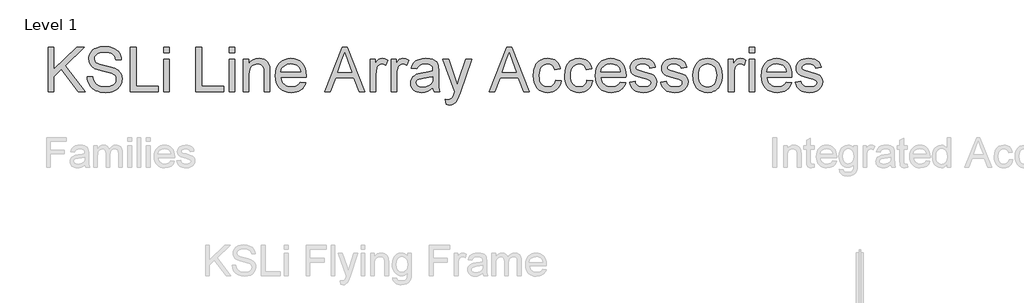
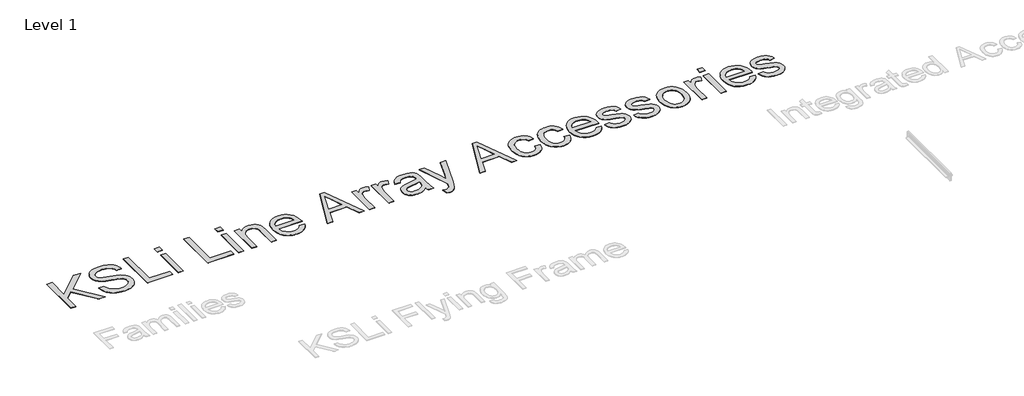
# One storey, part 36 of 52: 1 proxy.
"""IFC4 building model written with IfcOpenShell, lengths in millimetres."""

from ifc_helpers import new_model, si_unit, origin, origin_with_axes, place, context, project, spatial, polyline, outline, extrude, element, save

model = new_model("IFC4")

# Units and contexts
model_context = context("Model", 3, world=origin())
ifc_project = project(units=[si_unit("LENGTHUNIT", "METRE", prefix="MILLI")], contexts=[model_context])

# Site, building, storey
site = spatial("IfcSite", under=ifc_project)
building = spatial("IfcBuilding", under=site)
storey = spatial("IfcBuildingStorey", under=building, Name="Level 1", Elevation=0.0)

# Proxy
placement = place(None, origin())
element("IfcBuildingElementProxy", 1, Name="600mm Arial", ObjectType="600mm Arial", at=placement, inside=storey, context=model_context, shape_type="SweptSolid", body=[
    extrude(outline(polyline([(5965.0460087, -48567.5695164), (5965.0460087, -47976.8002857), (6038.8921626, -47976.8002857), (6038.8921626, -48265.982978), (6341.776778, -47976.8002857), (6445.0460087, -47976.8002857), (6190.7671626, -48219.684901), (6454.276778, -48567.5695164), (6363.9883164, -48567.5695164), (6138.4113933, -48269.5887472), (6038.8921626, -48364.4925934), (6038.8921626, -48567.5695164), (5965.0460087, -48567.5695164)])), origin_with_axes(), (0.0, 0.0, 1.0), 5.0),
    extrude(outline(polyline([(6481.9690857, -48364.4925934), (6555.8152395, -48364.4925934), (6564.2887972, -48405.4721607), (6579.6133164, -48438.4108626), (6603.5195664, -48464.5526895), (6637.7383164, -48485.1416318), (6679.5652395, -48498.5010068), (6726.2960087, -48502.9541318), (6767.4378357, -48499.5827376), (6803.4594703, -48489.4685549), (6832.6481722, -48473.4589395), (6853.291201, -48452.4012472), (6865.5688453, -48428.2245645), (6869.6613933, -48402.857978), (6866.5964895, -48378.1404299), (6857.401778, -48356.7762472), (6838.7238933, -48338.5490837), (6807.2094703, -48323.2425934), (6699.6854318, -48295.045478), (6629.1024991, -48276.3856222), (6583.9402395, -48258.6272087), (6547.1794222, -48233.7834587), (6521.1277395, -48203.6752857), (6505.604903, -48168.951728), (6500.4306241, -48130.2618241), (6502.0306842, -48108.271139), (6506.8308645, -48087.0106222), (6514.831165, -48066.4802736), (6526.0315857, -48046.6800934), (6540.3059246, -48028.4168722), (6557.5279799, -48012.497401), (6577.6977515, -47998.9216799), (6600.8152395, -47987.6897087), (6652.7743741, -47972.5995645), (6710.2863933, -47967.5695164), (6772.5940857, -47972.8339395), (6827.1133164, -47988.6272087), (6850.9654799, -48000.3910309), (6871.8969703, -48014.6248049), (6889.9077876, -48031.3285309), (6904.9979318, -48050.5022087), (6917.0502155, -48071.5869443), (6925.947451, -48094.0238434), (6931.6896385, -48117.8129059), (6934.276778, -48142.9541318), (6860.4306241, -48142.9541318), (6855.4907203, -48119.3904299), (6846.8729318, -48098.8916318), (6834.5772587, -48081.4577376), (6818.603701, -48067.0887472), (6798.6547828, -48055.856776), (6774.433028, -48047.8339395), (6745.9384366, -48043.0202376), (6713.1710087, -48041.4156703), (6679.3579078, -48043.0022087), (6650.4666818, -48047.7618241), (6626.4973308, -48055.6945164), (6607.4498549, -48066.8002857), (6592.9366337, -48080.1506462), (6582.5700472, -48094.8171126), (6576.3500953, -48110.7996847), (6574.276778, -48128.0983626), (6580.1541818, -48156.4757664), (6597.7863933, -48179.3002857), (6613.9762972, -48189.450526), (6639.4690857, -48199.7089395), (6718.3633164, -48220.5502857), (6799.7815857, -48240.3459587), (6849.0363933, -48257.6175934), (6891.1337491, -48284.4084587), (6907.40929, -48300.1566559), (6920.5027395, -48317.4733626), (6930.5673429, -48336.2684347), (6937.7563453, -48356.451728), (6943.5075472, -48400.982978), (6941.8534006, -48424.0824371), (6936.8909607, -48446.5058145), (6928.6202275, -48468.2531102), (6917.041201, -48489.3243241), (6902.3567058, -48508.903651), (6884.7695664, -48526.1752857), (6864.2797828, -48541.139228), (6840.8873549, -48553.795478), (6815.2728717, -48563.8600813), (6788.1169222, -48571.0490837), (6729.1806241, -48576.8002857), (6691.4056842, -48575.2498049), (6656.8308645, -48570.5983626), (6625.456165, -48562.8459587), (6597.2815857, -48551.9925934), (6572.1358525, -48538.0202376), (6549.8476914, -48520.9108626), (6530.4171025, -48500.6644684), (6513.8440857, -48477.2810549), (6500.4937251, -48451.5178337), (6490.7311049, -48424.1320164), (6484.5562251, -48395.123603), (6481.9690857, -48364.4925934)])), origin_with_axes(), (0.0, 0.0, 1.0), 5.0),
    extrude(outline(polyline([(7054.276778, -48567.5695164), (7054.276778, -47976.8002857), (7128.1229318, -47976.8002857), (7128.1229318, -48493.7233626), (7423.5075472, -48493.7233626), (7423.5075472, -48567.5695164), (7054.276778, -48567.5695164)])), origin_with_axes(), (0.0, 0.0, 1.0), 5.0),
    extrude(outline(polyline([(7497.353701, -48567.5695164), (7497.353701, -48133.7233626), (7571.1998549, -48133.7233626), (7571.1998549, -48567.5695164), (7497.353701, -48567.5695164)])), origin_with_axes(), (0.0, 0.0, 1.0), 5.0),
    extrude(outline(polyline([(7497.353701, -48050.6464395), (7497.353701, -47976.8002857), (7571.1998549, -47976.8002857), (7571.1998549, -48050.6464395), (7497.353701, -48050.6464395)])), origin_with_axes(), (0.0, 0.0, 1.0), 5.0),
    extrude(outline(polyline([(7921.9690857, -48567.5695164), (7921.9690857, -47976.8002857), (7995.8152395, -47976.8002857), (7995.8152395, -48493.7233626), (8291.1998549, -48493.7233626), (8291.1998549, -48567.5695164), (7921.9690857, -48567.5695164)])), origin_with_axes(), (0.0, 0.0, 1.0), 5.0),
    extrude(outline(polyline([(8365.0460087, -48567.5695164), (8365.0460087, -48133.7233626), (8438.8921626, -48133.7233626), (8438.8921626, -48567.5695164), (8365.0460087, -48567.5695164)])), origin_with_axes(), (0.0, 0.0, 1.0), 5.0),
    extrude(outline(polyline([(8365.0460087, -48050.6464395), (8365.0460087, -47976.8002857), (8438.8921626, -47976.8002857), (8438.8921626, -48050.6464395), (8365.0460087, -48050.6464395)])), origin_with_axes(), (0.0, 0.0, 1.0), 5.0),
    extrude(outline(polyline([(8549.6613933, -48567.5695164), (8549.6613933, -48133.7233626), (8623.5075472, -48133.7233626), (8623.5075472, -48194.3002857), (8649.1625953, -48163.7594203), (8679.9738933, -48141.9445164), (8715.9414414, -48128.8555741), (8757.0652395, -48124.4925934), (8793.4654799, -48128.0082184), (8826.8008164, -48138.5550934), (8854.6012972, -48154.8171126), (8874.3969703, -48175.4781703), (8887.8284607, -48200.4841799), (8896.5363933, -48229.7810549), (8900.4306241, -48301.1752857), (8900.4306241, -48567.5695164), (8826.5844703, -48567.5695164), (8826.5844703, -48311.1272087), (8824.4570664, -48272.9421126), (8818.0748549, -48245.7906703), (8806.3020183, -48226.3375453), (8788.0027395, -48211.247401), (8764.5472107, -48201.5659107), (8737.3056241, -48198.3387472), (8714.8822467, -48200.1506462), (8694.0544222, -48205.5863434), (8674.8221506, -48214.6458385), (8657.1854318, -48227.3291318), (8642.4513573, -48245.0785309), (8631.9270183, -48269.3363434), (8625.612415, -48300.1025693), (8623.5075472, -48337.3772087), (8623.5075472, -48567.5695164), (8549.6613933, -48567.5695164)])), origin_with_axes(), (0.0, 0.0, 1.0), 5.0),
    extrude(outline(polyline([(9305.7190857, -48438.3387472), (9378.1229318, -48447.5695164), (9367.0216698, -48476.5689155), (9352.0351914, -48502.1248049), (9333.1634967, -48524.2371847), (9310.4065857, -48542.9060549), (9283.9988333, -48557.7347809), (9254.1746145, -48568.326728), (9220.9339294, -48574.6818962), (9184.276778, -48576.8002857), (9138.4564655, -48573.1449371), (9097.6301433, -48562.1788914), (9061.7978116, -48543.9021486), (9030.9594703, -48518.3147087), (9006.1607924, -48486.1287111), (8988.447451, -48448.0562953), (8977.8194462, -48404.0974611), (8974.276778, -48354.2522087), (8977.8555039, -48302.716752), (8988.5916818, -48257.2930741), (9006.4853116, -48217.9811751), (9031.5363933, -48184.7810549), (9062.2936049, -48158.404853), (9097.3056241, -48139.5647087), (9136.572451, -48128.2606222), (9180.0940857, -48124.4925934), (9222.2139775, -48128.2516078), (9260.3044222, -48139.528651), (9294.3654198, -48158.3237232), (9324.3969703, -48184.6368241), (9348.9116938, -48217.7648289), (9366.4222107, -48257.0046126), (9376.9285208, -48302.3561751), (9380.4306241, -48353.8195164), (9379.9979318, -48373.7233626), (9048.1229318, -48373.7233626), (9052.4002756, -48403.1915116), (9060.9053837, -48428.9998049), (9073.6382563, -48451.1482424), (9090.5988933, -48469.6368241), (9110.8497948, -48484.2131462), (9133.4534607, -48494.6248049), (9158.4098909, -48500.8718001), (9185.7190857, -48502.9541318), (9225.0219703, -48499.0959587), (9258.1229318, -48487.5214395), (9285.0219703, -48467.5094203), (9305.7190857, -48438.3387472)]), holes=[polyline([(9048.1229318, -48299.8772087), (9306.5844703, -48299.8772087), (9296.5964895, -48260.8627857), (9288.0057443, -48245.5202376), (9277.0171626, -48232.9541318), (9256.8789414, -48217.809901), (9233.964278, -48206.9925934), (9208.2731722, -48200.5022087), (9179.8056241, -48198.3387472), (9153.8395784, -48200.0650092), (9130.0279799, -48205.2437953), (9108.3708284, -48213.8751054), (9088.8681241, -48225.9589395), (9072.502439, -48240.9364034), (9060.2563453, -48258.248603), (9052.1298429, -48277.8955381), (9048.1229318, -48299.8772087)])]), origin_with_axes(), (0.0, 0.0, 1.0), 5.0),
    extrude(outline(polyline([(9625.478701, -48567.5695164), (9861.2960087, -47976.8002857), (9924.1806241, -47976.8002857), (10159.9979318, -48567.5695164), (10081.9690857, -48567.5695164), (10014.3248549, -48382.9541318), (9771.0075472, -48382.9541318), (9703.5075472, -48567.5695164), (9625.478701, -48567.5695164)]), holes=[polyline([(9798.1229318, -48309.107978), (9987.353701, -48309.107978), (9934.1325472, -48163.8675934), (9892.7383164, -48050.6464395), (9855.9594703, -48151.1752857), (9798.1229318, -48309.107978)])]), origin_with_axes(), (0.0, 0.0, 1.0), 5.0),
    extrude(outline(polyline([(10229.6613933, -48567.5695164), (10229.6613933, -48133.7233626), (10294.276778, -48133.7233626), (10294.276778, -48197.9060549), (10318.1469703, -48160.6945164), (10340.1421626, -48138.7714395), (10362.2094703, -48128.0623049), (10386.2960087, -48124.4925934), (10423.0748549, -48130.1897087), (10460.4306241, -48147.2810549), (10435.7671626, -48213.482978), (10409.8056241, -48202.1248049), (10383.8440857, -48198.3387472), (10361.7948068, -48201.9805741), (10342.089278, -48212.9060549), (10326.1698068, -48230.2858626), (10315.478701, -48253.2906703), (10306.5003357, -48294.5406703), (10303.5075472, -48339.5406703), (10303.5075472, -48567.5695164), (10229.6613933, -48567.5695164)])), origin_with_axes(), (0.0, 0.0, 1.0), 5.0),
    extrude(outline(polyline([(10506.5844703, -48567.5695164), (10506.5844703, -48133.7233626), (10571.1998549, -48133.7233626), (10571.1998549, -48197.9060549), (10595.0700472, -48160.6945164), (10617.0652395, -48138.7714395), (10639.1325472, -48128.0623049), (10663.2190857, -48124.4925934), (10699.9979318, -48130.1897087), (10737.353701, -48147.2810549), (10712.6902395, -48213.482978), (10686.728701, -48202.1248049), (10660.7671626, -48198.3387472), (10638.7178837, -48201.9805741), (10619.0123549, -48212.9060549), (10603.0928837, -48230.2858626), (10592.401778, -48253.2906703), (10583.4234126, -48294.5406703), (10580.4306241, -48339.5406703), (10580.4306241, -48567.5695164), (10506.5844703, -48567.5695164)])), origin_with_axes(), (0.0, 0.0, 1.0), 5.0),
    extrude(outline(polyline([(11060.4306241, -48512.184901), (11025.1481722, -48542.4373049), (10988.8200472, -48562.232978), (10950.6169222, -48573.1584587), (10909.7094703, -48576.8002857), (10876.8293621, -48574.6097809), (10847.9967299, -48568.0382664), (10823.2115736, -48557.0857424), (10802.4738933, -48541.7522087), (10786.0991938, -48523.0112232), (10774.4029799, -48501.8363434), (10767.3852515, -48478.2275693), (10765.0460087, -48452.184901), (10768.5796626, -48421.5719203), (10779.1806241, -48393.7714395), (10795.5327876, -48369.9733626), (10816.3200472, -48351.3675934), (10840.7491337, -48337.3050934), (10868.026778, -48327.1368241), (10931.9210087, -48316.0310549), (11007.4258164, -48304.3483626), (11059.9979318, -48290.6464395), (11060.4306241, -48274.2041318), (11055.3464895, -48241.247401), (11048.9913212, -48229.0418722), (11040.0940857, -48219.684901), (11024.7154799, -48210.3459587), (11005.9835087, -48203.6752857), (10958.4594703, -48198.3387472), (10914.4690857, -48201.8904299), (10883.7479318, -48212.545478), (10862.7984126, -48232.2510068), (10848.1229318, -48262.9541318), (10774.276778, -48253.7233626), (10787.0952876, -48213.3387472), (10806.2238933, -48181.607978), (10833.447451, -48157.341151), (10870.5508164, -48139.3483626), (10915.9294222, -48128.2065357), (10967.978701, -48124.4925934), (11017.900576, -48127.7738434), (11057.4738933, -48137.6175934), (11087.3116337, -48152.419276), (11108.026778, -48170.5743241), (11121.7647587, -48193.0202376), (11130.6710087, -48220.6945164), (11134.276778, -48285.309901), (11134.276778, -48377.184901), (11138.026778, -48505.4781703), (11143.5796626, -48537.1909107), (11152.7383164, -48567.5695164), (11078.8921626, -48567.5695164), (11067.0652395, -48541.8964395), (11060.4306241, -48512.184901)]), holes=[polyline([(11060.4306241, -48364.4925934), (11010.8152395, -48376.7882664), (10941.2960087, -48387.1368241), (10877.7623549, -48399.107978), (10861.229903, -48407.2930741), (10848.9883164, -48418.5791318), (10841.416201, -48432.1007664), (10838.8921626, -48446.9925934), (10844.3909607, -48468.951728), (10860.8873549, -48486.9445164), (10888.0207683, -48498.951728), (10925.4306241, -48502.9541318), (10965.0940857, -48498.5370645), (11000.1421626, -48485.2858626), (11028.5556241, -48465.7606222), (11048.3152395, -48442.5214395), (11057.0772587, -48418.5791318), (11059.9979318, -48385.4060549), (11060.4306241, -48364.4925934)])]), origin_with_axes(), (0.0, 0.0, 1.0), 5.0),
    extrude(outline(polyline([(11235.8152395, -48733.7233626), (11226.5844703, -48662.6175934), (11264.0844703, -48669.107978), (11283.808028, -48667.0707184), (11299.1325472, -48660.9589395), (11311.0676433, -48651.2053337), (11320.6229318, -48638.2425934), (11340.8152395, -48583.8675934), (11346.5844703, -48565.982978), (11189.6613933, -48133.7233626), (11267.5460087, -48133.7233626), (11350.7671626, -48374.5887472), (11379.7575472, -48470.934901), (11408.7479318, -48385.8387472), (11494.276778, -48133.7233626), (11571.5844703, -48133.7233626), (11420.5748549, -48577.9541318), (11381.3440857, -48674.3002857), (11361.259951, -48705.0574972), (11338.5075472, -48726.3675934), (11312.0772587, -48738.8074972), (11280.9594703, -48742.9541318), (11259.5772587, -48740.6464395), (11235.8152395, -48733.7233626)])), origin_with_axes(), (0.0, 0.0, 1.0), 5.0),
    extrude(outline(polyline([(11803.9402395, -48567.5695164), (12039.7575472, -47976.8002857), (12102.6421626, -47976.8002857), (12338.4594703, -48567.5695164), (12260.4306241, -48567.5695164), (12192.7863933, -48382.9541318), (11949.4690857, -48382.9541318), (11881.9690857, -48567.5695164), (11803.9402395, -48567.5695164)]), holes=[polyline([(11976.5844703, -48309.107978), (12165.8152395, -48309.107978), (12112.5940857, -48163.8675934), (12071.1998549, -48050.6464395), (12034.4210087, -48151.1752857), (11976.5844703, -48309.107978)])]), origin_with_axes(), (0.0, 0.0, 1.0), 5.0),
    extrude(outline(polyline([(12685.0460087, -48410.6464395), (12758.8921626, -48419.8772087), (12750.8603116, -48454.7224611), (12738.3032203, -48485.5562953), (12721.2208885, -48512.3787111), (12699.6133164, -48535.1897087), (12674.3909607, -48553.3943361), (12646.464278, -48566.3976414), (12615.8332683, -48574.1996246), (12582.4979318, -48576.8002857), (12541.081165, -48573.1719804), (12503.9462491, -48562.2870645), (12471.0931842, -48544.1455381), (12442.5219703, -48518.747401), (12419.3954679, -48486.5704179), (12402.8765376, -48448.092353), (12392.9651794, -48403.3132063), (12389.6613933, -48352.232978), (12395.3044222, -48286.5178337), (12402.3582083, -48256.9460188), (12412.2335087, -48229.5647087), (12424.9979318, -48204.9237833), (12440.7190857, -48183.5731222), (12459.3969703, -48165.5127256), (12481.0315857, -48150.7425934), (12504.6448669, -48139.2582184), (12529.2587491, -48131.0550934), (12554.8732323, -48126.1332184), (12581.4883164, -48124.4925934), (12614.2512371, -48126.7461991), (12643.886153, -48133.5070164), (12670.393064, -48144.7750453), (12693.7719703, -48160.5502857), (12713.6262371, -48180.4721607), (12729.5592299, -48204.1800934), (12741.5709486, -48231.6740837), (12749.6613933, -48262.9541318), (12675.8152395, -48272.184901), (12662.4198068, -48239.967353), (12641.5604318, -48216.872401), (12614.3909607, -48202.9721607), (12582.0652395, -48198.3387472), (12556.9735929, -48200.6193962), (12534.3428837, -48207.4613434), (12514.1731121, -48218.8645885), (12496.464278, -48234.8291318), (12482.0457083, -48255.7245645), (12471.7467299, -48281.920478), (12465.5673429, -48313.4168722), (12463.5075472, -48350.2137472), (12465.5222708, -48387.5650092), (12471.5664414, -48419.4264876), (12481.6400592, -48445.7981823), (12495.7431241, -48466.6800934), (12513.1003958, -48482.5499852), (12532.9366337, -48493.8856222), (12555.2518381, -48500.6870044), (12580.0460087, -48502.9541318), (12618.2851914, -48497.2930741), (12634.8221506, -48490.216752), (12649.6373549, -48480.309901), (12662.3161409, -48467.4643482), (12672.4438453, -48451.5719203), (12680.0204679, -48432.6326174), (12685.0460087, -48410.6464395)])), origin_with_axes(), (0.0, 0.0, 1.0), 5.0),
    extrude(outline(polyline([(13100.4306241, -48410.6464395), (13174.276778, -48419.8772087), (13166.244927, -48454.7224611), (13153.6878357, -48485.5562953), (13136.6055039, -48512.3787111), (13114.9979318, -48535.1897087), (13089.775576, -48553.3943361), (13061.8488933, -48566.3976414), (13031.2178837, -48574.1996246), (12997.8825472, -48576.8002857), (12956.4657804, -48573.1719804), (12919.3308645, -48562.2870645), (12886.4777996, -48544.1455381), (12857.9065857, -48518.747401), (12834.7800833, -48486.5704179), (12818.261153, -48448.092353), (12808.3497948, -48403.3132063), (12805.0460087, -48352.232978), (12810.6890376, -48286.5178337), (12817.7428236, -48256.9460188), (12827.6181241, -48229.5647087), (12840.3825472, -48204.9237833), (12856.103701, -48183.5731222), (12874.7815857, -48165.5127256), (12896.416201, -48150.7425934), (12920.0294823, -48139.2582184), (12944.6433645, -48131.0550934), (12970.2578477, -48126.1332184), (12996.8729318, -48124.4925934), (13029.6358525, -48126.7461991), (13059.2707683, -48133.5070164), (13085.7776794, -48144.7750453), (13109.1565857, -48160.5502857), (13129.0108525, -48180.4721607), (13144.9438453, -48204.1800934), (13156.955564, -48231.6740837), (13165.0460087, -48262.9541318), (13091.1998549, -48272.184901), (13077.8044222, -48239.967353), (13056.9450472, -48216.872401), (13029.775576, -48202.9721607), (12997.4498549, -48198.3387472), (12972.3582083, -48200.6193962), (12949.7274991, -48207.4613434), (12929.5577275, -48218.8645885), (12911.8488933, -48234.8291318), (12897.4303236, -48255.7245645), (12887.1313453, -48281.920478), (12880.9519583, -48313.4168722), (12878.8921626, -48350.2137472), (12880.9068861, -48387.5650092), (12886.9510568, -48419.4264876), (12897.0246746, -48445.7981823), (12911.1277395, -48466.6800934), (12928.4850111, -48482.5499852), (12948.3212491, -48493.8856222), (12970.6364534, -48500.6870044), (12995.4306241, -48502.9541318), (13033.6698068, -48497.2930741), (13050.2067659, -48490.216752), (13065.0219703, -48480.309901), (13077.7007563, -48467.4643482), (13087.8284607, -48451.5719203), (13095.4050833, -48432.6326174), (13100.4306241, -48410.6464395)])), origin_with_axes(), (0.0, 0.0, 1.0), 5.0),
    extrude(outline(polyline([(13542.6421626, -48438.3387472), (13615.0460087, -48447.5695164), (13603.9447467, -48476.5689155), (13588.9582683, -48502.1248049), (13570.0865736, -48524.2371847), (13547.3296626, -48542.9060549), (13520.9219102, -48557.7347809), (13491.0976914, -48568.326728), (13457.8570063, -48574.6818962), (13421.1998549, -48576.8002857), (13375.3795424, -48573.1449371), (13334.5532203, -48562.1788914), (13298.7208885, -48543.9021486), (13267.8825472, -48518.3147087), (13243.0838693, -48486.1287111), (13225.370528, -48448.0562953), (13214.7425232, -48404.0974611), (13211.1998549, -48354.2522087), (13214.7785808, -48302.716752), (13225.5147587, -48257.2930741), (13243.4083885, -48217.9811751), (13268.4594703, -48184.7810549), (13299.2166818, -48158.404853), (13334.228701, -48139.5647087), (13373.495528, -48128.2606222), (13417.0171626, -48124.4925934), (13459.1370544, -48128.2516078), (13497.2274991, -48139.528651), (13531.2884967, -48158.3237232), (13561.3200472, -48184.6368241), (13585.8347708, -48217.7648289), (13603.3452876, -48257.0046126), (13613.8515977, -48302.3561751), (13617.353701, -48353.8195164), (13616.9210087, -48373.7233626), (13285.0460087, -48373.7233626), (13289.3233525, -48403.1915116), (13297.8284607, -48428.9998049), (13310.5613333, -48451.1482424), (13327.5219703, -48469.6368241), (13347.7728717, -48484.2131462), (13370.3765376, -48494.6248049), (13395.3329679, -48500.8718001), (13422.6421626, -48502.9541318), (13461.9450472, -48499.0959587), (13495.0460087, -48487.5214395), (13521.9450472, -48467.5094203), (13542.6421626, -48438.3387472)]), holes=[polyline([(13285.0460087, -48299.8772087), (13543.5075472, -48299.8772087), (13533.5195664, -48260.8627857), (13524.9288212, -48245.5202376), (13513.9402395, -48232.9541318), (13493.8020183, -48217.809901), (13470.8873549, -48206.9925934), (13445.1962491, -48200.5022087), (13416.728701, -48198.3387472), (13390.7626554, -48200.0650092), (13366.9510568, -48205.2437953), (13345.2939054, -48213.8751054), (13325.791201, -48225.9589395), (13309.4255159, -48240.9364034), (13297.1794222, -48258.248603), (13289.0529198, -48277.8955381), (13285.0460087, -48299.8772087)])]), origin_with_axes(), (0.0, 0.0, 1.0), 5.0),
    extrude(outline(polyline([(13663.5075472, -48438.3387472), (13737.353701, -48429.107978), (13741.8158405, -48445.9469203), (13749.0003357, -48460.6945164), (13758.9071866, -48473.3507664), (13771.5363933, -48483.9156703), (13786.9240135, -48492.2449972), (13805.1061049, -48498.1945164), (13849.853701, -48502.9541318), (13894.0604318, -48498.591151), (13911.2419222, -48493.1374251), (13925.1421626, -48485.5022087), (13943.5315857, -48466.5358626), (13949.6613933, -48444.5406703), (13948.119927, -48434.5707184), (13943.495528, -48425.7185549), (13924.9979318, -48411.3675934), (13897.3416818, -48401.9925934), (13848.9883164, -48390.309901), (13781.5964895, -48370.8207184), (13737.7863933, -48354.1800934), (13709.6433645, -48336.0250453), (13689.2527395, -48311.9925934), (13676.8669222, -48283.6151895), (13672.7383164, -48252.4252857), (13676.0556241, -48223.8135068), (13686.0075472, -48197.4012472), (13701.6926433, -48174.2341799), (13722.2094703, -48155.357978), (13742.6000953, -48143.4769684), (13769.1565857, -48133.5070164), (13799.8597107, -48126.7461991), (13832.6902395, -48124.4925934), (13880.7551433, -48128.1163914), (13922.5460087, -48138.9877857), (13956.151778, -48156.0430741), (13979.6613933, -48178.2185549), (13995.2383164, -48207.154853), (14005.0460087, -48244.4925934), (13931.1998549, -48253.7233626), (13921.8789414, -48230.4841799), (13903.4354318, -48212.9781703), (13875.6890376, -48201.998603), (13838.4594703, -48198.3387472), (13796.0556241, -48201.8363434), (13767.7863933, -48212.3291318), (13751.884951, -48227.4733626), (13746.5844703, -48244.9252857), (13748.7839895, -48256.2834587), (13755.3825472, -48266.4156703), (13766.6686049, -48275.466151), (13782.9306241, -48282.7137472), (13846.5363933, -48298.434901), (13954.9258164, -48333.1945164), (13983.5556241, -48349.8171126), (14005.2623549, -48372.5695164), (14018.9462491, -48401.5238434), (14023.5075472, -48436.7522087), (14018.1529799, -48473.170478), (14002.089278, -48507.4252857), (13975.9294222, -48536.8303337), (13940.2863933, -48558.6993241), (13897.2335087, -48572.2750453), (13848.8440857, -48576.8002857), (13809.0994943, -48574.6187953), (13774.384951, -48568.0743241), (13744.7004558, -48557.1668722), (13720.0460087, -48541.8964395), (13699.9077876, -48522.3351414), (13683.7719703, -48498.5550934), (13671.6385568, -48470.5562953), (13663.5075472, -48438.3387472)])), origin_with_axes(), (0.0, 0.0, 1.0), 5.0),
    extrude(outline(polyline([(14078.8921626, -48438.3387472), (14152.7383164, -48429.107978), (14157.2004558, -48445.9469203), (14164.384951, -48460.6945164), (14174.291802, -48473.3507664), (14186.9210087, -48483.9156703), (14202.3086289, -48492.2449972), (14220.4907203, -48498.1945164), (14265.2383164, -48502.9541318), (14309.4450472, -48498.591151), (14326.6265376, -48493.1374251), (14340.526778, -48485.5022087), (14358.916201, -48466.5358626), (14365.0460087, -48444.5406703), (14363.5045424, -48434.5707184), (14358.8801433, -48425.7185549), (14340.3825472, -48411.3675934), (14312.7262972, -48401.9925934), (14264.3729318, -48390.309901), (14196.9811049, -48370.8207184), (14153.1710087, -48354.1800934), (14125.0279799, -48336.0250453), (14104.6373549, -48311.9925934), (14092.2515376, -48283.6151895), (14088.1229318, -48252.4252857), (14091.4402395, -48223.8135068), (14101.3921626, -48197.4012472), (14117.0772587, -48174.2341799), (14137.5940857, -48155.357978), (14157.9847107, -48143.4769684), (14184.541201, -48133.5070164), (14215.244326, -48126.7461991), (14248.0748549, -48124.4925934), (14296.1397587, -48128.1163914), (14337.9306241, -48138.9877857), (14371.5363933, -48156.0430741), (14395.0460087, -48178.2185549), (14410.6229318, -48207.154853), (14420.4306241, -48244.4925934), (14346.5844703, -48253.7233626), (14337.2635568, -48230.4841799), (14318.8200472, -48212.9781703), (14291.073653, -48201.998603), (14253.8440857, -48198.3387472), (14211.4402395, -48201.8363434), (14183.1710087, -48212.3291318), (14167.2695664, -48227.4733626), (14161.9690857, -48244.9252857), (14164.1686049, -48256.2834587), (14170.7671626, -48266.4156703), (14182.0532203, -48275.466151), (14198.3152395, -48282.7137472), (14261.9210087, -48298.434901), (14370.3104318, -48333.1945164), (14398.9402395, -48349.8171126), (14420.6469703, -48372.5695164), (14434.3308645, -48401.5238434), (14438.8921626, -48436.7522087), (14433.5375953, -48473.170478), (14417.4738933, -48507.4252857), (14391.3140376, -48536.8303337), (14355.6710087, -48558.6993241), (14312.6181241, -48572.2750453), (14264.228701, -48576.8002857), (14224.4841097, -48574.6187953), (14189.7695664, -48568.0743241), (14160.0850712, -48557.1668722), (14135.4306241, -48541.8964395), (14115.292403, -48522.3351414), (14099.1565857, -48498.5550934), (14087.0231722, -48470.5562953), (14078.8921626, -48438.3387472)])), origin_with_axes(), (0.0, 0.0, 1.0), 5.0),
    extrude(outline(polyline([(14503.5075472, -48350.6464395), (14507.5009366, -48294.4595405), (14519.4811049, -48246.0430741), (14539.448052, -48205.3970405), (14567.401778, -48172.5214395), (14595.5448068, -48151.5088193), (14626.6085087, -48136.4998049), (14660.5928837, -48127.4943962), (14697.4979318, -48124.4925934), (14738.2386169, -48128.1479419), (14775.0760568, -48139.1139876), (14808.0102515, -48157.3907304), (14837.041201, -48182.9781703), (14860.7356121, -48215.0109227), (14877.6601914, -48252.623603), (14887.814939, -48295.8162111), (14891.1998549, -48344.5887472), (14889.7034607, -48384.1169924), (14885.214278, -48419.1921126), (14877.7323068, -48449.8141078), (14867.2575472, -48475.982978), (14853.9207083, -48498.5866438), (14837.8524991, -48518.513026), (14819.0529198, -48535.7621246), (14797.5219703, -48550.3339395), (14774.0979919, -48561.9129659), (14749.619326, -48570.1836991), (14724.0859727, -48575.146139), (14697.4979318, -48576.8002857), (14656.1622948, -48573.1584587), (14618.9823068, -48562.232978), (14585.9579679, -48544.0238434), (14557.089278, -48518.5310549), (14533.6472708, -48486.1873049), (14516.9029799, -48447.4252857), (14506.8564054, -48402.2449972), (14503.5075472, -48350.6464395)]), holes=[polyline([(14577.353701, -48350.5022087), (14579.4901193, -48386.3210188), (14585.8993741, -48417.3351414), (14596.5814655, -48443.5445765), (14611.5363933, -48464.9493241), (14629.7274991, -48481.5764275), (14650.1181241, -48493.4529299), (14672.7082683, -48500.5788313), (14697.4979318, -48502.9541318), (14722.1613933, -48500.5653097), (14744.6613933, -48493.3988434), (14764.9979318, -48481.4547328), (14783.1710087, -48464.732978), (14798.1259366, -48443.1163914), (14808.808028, -48416.4877857), (14815.2172828, -48384.8471607), (14817.353701, -48348.1945164), (14815.2037611, -48313.5115236), (14808.7539414, -48283.3086991), (14798.0042419, -48257.5860429), (14782.9546626, -48236.3435549), (14764.7139775, -48219.7164515), (14744.3909607, -48207.8399491), (14721.9856121, -48200.7140477), (14697.4979318, -48198.3387472), (14672.7082683, -48200.7050333), (14650.1181241, -48207.8038914), (14629.7274991, -48219.6353217), (14611.5363933, -48236.1993241), (14596.5814655, -48257.5409708), (14585.8993741, -48283.7053337), (14579.4901193, -48314.6924131), (14577.353701, -48350.5022087)])]), origin_with_axes(), (0.0, 0.0, 1.0), 5.0),
    extrude(outline(polyline([(14974.276778, -48567.5695164), (14974.276778, -48133.7233626), (15038.8921626, -48133.7233626), (15038.8921626, -48197.9060549), (15062.7623549, -48160.6945164), (15084.7575472, -48138.7714395), (15106.8248549, -48128.0623049), (15130.9113933, -48124.4925934), (15167.6902395, -48130.1897087), (15205.0460087, -48147.2810549), (15180.3825472, -48213.482978), (15154.4210087, -48202.1248049), (15128.4594703, -48198.3387472), (15106.4101914, -48201.9805741), (15086.7046626, -48212.9060549), (15070.7851914, -48230.2858626), (15060.0940857, -48253.2906703), (15051.1157203, -48294.5406703), (15048.1229318, -48339.5406703), (15048.1229318, -48567.5695164), (14974.276778, -48567.5695164)])), origin_with_axes(), (0.0, 0.0, 1.0), 5.0),
    extrude(outline(polyline([(15251.1998549, -48050.6464395), (15251.1998549, -47976.8002857), (15325.0460087, -47976.8002857), (15325.0460087, -48050.6464395), (15251.1998549, -48050.6464395)])), origin_with_axes(), (0.0, 0.0, 1.0), 5.0),
    extrude(outline(polyline([(15251.1998549, -48567.5695164), (15251.1998549, -48133.7233626), (15325.0460087, -48133.7233626), (15325.0460087, -48567.5695164), (15251.1998549, -48567.5695164)])), origin_with_axes(), (0.0, 0.0, 1.0), 5.0),
    extrude(outline(polyline([(15739.5652395, -48438.3387472), (15811.9690857, -48447.5695164), (15800.8678236, -48476.5689155), (15785.8813453, -48502.1248049), (15767.0096506, -48524.2371847), (15744.2527395, -48542.9060549), (15717.8449871, -48557.7347809), (15688.0207683, -48568.326728), (15654.7800833, -48574.6818962), (15618.1229318, -48576.8002857), (15572.3026193, -48573.1449371), (15531.4762972, -48562.1788914), (15495.6439655, -48543.9021486), (15464.8056241, -48518.3147087), (15440.0069462, -48486.1287111), (15422.2936049, -48448.0562953), (15411.6656001, -48404.0974611), (15408.1229318, -48354.2522087), (15411.7016578, -48302.716752), (15422.4378357, -48257.2930741), (15440.3314655, -48217.9811751), (15465.3825472, -48184.7810549), (15496.1397587, -48158.404853), (15531.151778, -48139.5647087), (15570.4186049, -48128.2606222), (15613.9402395, -48124.4925934), (15656.0601313, -48128.2516078), (15694.150576, -48139.528651), (15728.2115736, -48158.3237232), (15758.2431241, -48184.6368241), (15782.7578477, -48217.7648289), (15800.2683645, -48257.0046126), (15810.7746746, -48302.3561751), (15814.276778, -48353.8195164), (15813.8440857, -48373.7233626), (15481.9690857, -48373.7233626), (15486.2464294, -48403.1915116), (15494.7515376, -48428.9998049), (15507.4844102, -48451.1482424), (15524.4450472, -48469.6368241), (15544.6959486, -48484.2131462), (15567.2996145, -48494.6248049), (15592.2560448, -48500.8718001), (15619.5652395, -48502.9541318), (15658.8681241, -48499.0959587), (15691.9690857, -48487.5214395), (15718.8681241, -48467.5094203), (15739.5652395, -48438.3387472)]), holes=[polyline([(15481.9690857, -48299.8772087), (15740.4306241, -48299.8772087), (15730.4426433, -48260.8627857), (15721.8518982, -48245.5202376), (15710.8633164, -48232.9541318), (15690.7250953, -48217.809901), (15667.8104318, -48206.9925934), (15642.119326, -48200.5022087), (15613.651778, -48198.3387472), (15587.6857323, -48200.0650092), (15563.8741337, -48205.2437953), (15542.2169823, -48213.8751054), (15522.714278, -48225.9589395), (15506.3485929, -48240.9364034), (15494.1024991, -48258.248603), (15485.9759967, -48277.8955381), (15481.9690857, -48299.8772087)])]), origin_with_axes(), (0.0, 0.0, 1.0), 5.0),
    extrude(outline(polyline([(15860.4306241, -48438.3387472), (15934.276778, -48429.107978), (15938.7389174, -48445.9469203), (15945.9234126, -48460.6945164), (15955.8302635, -48473.3507664), (15968.4594703, -48483.9156703), (15983.8470905, -48492.2449972), (16002.0291818, -48498.1945164), (16046.776778, -48502.9541318), (16090.9835087, -48498.591151), (16108.1649991, -48493.1374251), (16122.0652395, -48485.5022087), (16140.4546626, -48466.5358626), (16146.5844703, -48444.5406703), (16145.0430039, -48434.5707184), (16140.4186049, -48425.7185549), (16121.9210087, -48411.3675934), (16094.2647587, -48401.9925934), (16045.9113933, -48390.309901), (15978.5195664, -48370.8207184), (15934.7094703, -48354.1800934), (15906.5664414, -48336.0250453), (15886.1758164, -48311.9925934), (15873.7899991, -48283.6151895), (15869.6613933, -48252.4252857), (15872.978701, -48223.8135068), (15882.9306241, -48197.4012472), (15898.6157203, -48174.2341799), (15919.1325472, -48155.357978), (15939.5231722, -48143.4769684), (15966.0796626, -48133.5070164), (15996.7827876, -48126.7461991), (16029.6133164, -48124.4925934), (16077.6782203, -48128.1163914), (16119.4690857, -48138.9877857), (16153.0748549, -48156.0430741), (16176.5844703, -48178.2185549), (16192.1613933, -48207.154853), (16201.9690857, -48244.4925934), (16128.1229318, -48253.7233626), (16118.8020183, -48230.4841799), (16100.3585087, -48212.9781703), (16072.6121145, -48201.998603), (16035.3825472, -48198.3387472), (15992.978701, -48201.8363434), (15964.7094703, -48212.3291318), (15948.808028, -48227.4733626), (15943.5075472, -48244.9252857), (15945.7070664, -48256.2834587), (15952.3056241, -48266.4156703), (15963.5916818, -48275.466151), (15979.853701, -48282.7137472), (16043.4594703, -48298.434901), (16151.8488933, -48333.1945164), (16180.478701, -48349.8171126), (16202.1854318, -48372.5695164), (16215.869326, -48401.5238434), (16220.4306241, -48436.7522087), (16215.0760568, -48473.170478), (16199.0123549, -48507.4252857), (16172.8524991, -48536.8303337), (16137.2094703, -48558.6993241), (16094.1565857, -48572.2750453), (16045.7671626, -48576.8002857), (16006.0225712, -48574.6187953), (15971.308028, -48568.0743241), (15941.6235328, -48557.1668722), (15916.9690857, -48541.8964395), (15896.8308645, -48522.3351414), (15880.6950472, -48498.5550934), (15868.5616337, -48470.5562953), (15860.4306241, -48438.3387472)])), origin_with_axes(), (0.0, 0.0, 1.0), 5.0),
])

save(model, "model.ifc")
